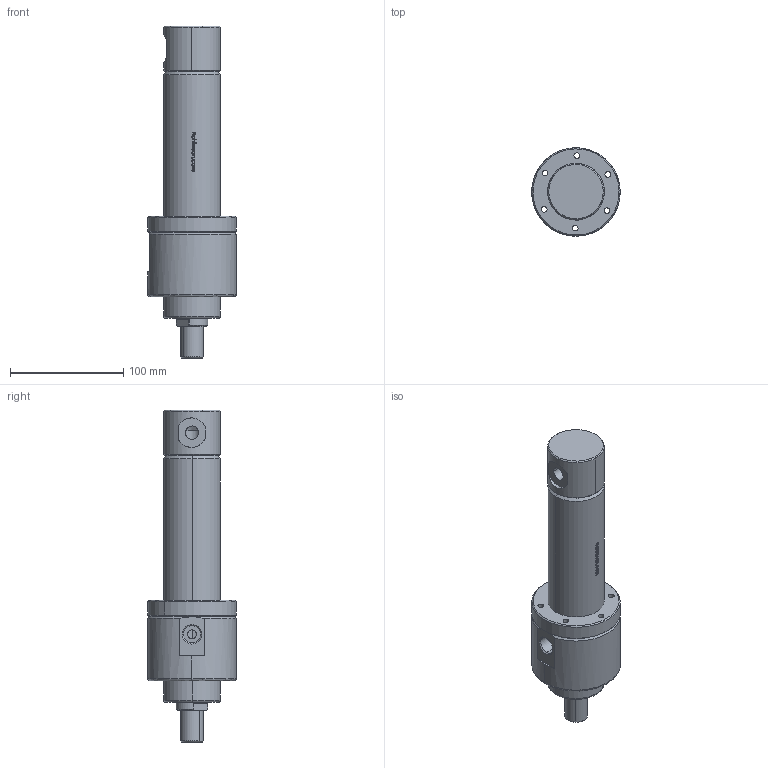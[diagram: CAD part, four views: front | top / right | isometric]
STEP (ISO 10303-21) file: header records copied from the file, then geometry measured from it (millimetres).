
FILE_DESCRIPTION (( 'STEP AP214' ), '1' );
FILE_NAME ('40_28_75_WEB.STEP', '2020-08-05T10:23:00', ( '' ), ( '' ), 'SwSTEP 2.0', 'SolidWorks 2018', '' );
FILE_SCHEMA (( 'AUTOMOTIVE_DESIGN' ));
Length unit declared in the file: millimetre
Products named in the file (11): Assem1; KASTAS-K84-32_8X40X3_4; 28_K_MIL_WEB; Kastas Seals-K68-28X32X9_7; KASTAS-K06-28X36_6X5_3X7; KASTAS-K32-28X38X6; 40_烰_KAPAK; 40_28_75_WEB; TYAK_40_50; FLANS; 40_25_HON_BORU_WEB
Assembly tree (11 placements, depth 3):
  40_28_75_WEB
    40_25_HON_BORU_WEB
    28_K_MIL_WEB
    Assem1
      40_烰_KAPAK
      KASTAS-K06-28X36_6X5_3X7
      KASTAS-K32-28X38X6
      Kastas Seals-K68-28X32X9_7  x2
      KASTAS-K84-32_8X40X3_4
    FLANS
    TYAK_40_50
Bounding box: 78 x 78 x 293 mm (x, y, z)
Volume: 482908.9 mm3; surface area: 127174.8 mm2
Topology: 10 solids, 10 shells, 483 faces, 1177 edges, 751 vertices
Faces by surface type: plane 143, cylinder 130, cone 103, bspline 103, torus 4
Entity records: 21002 total; most frequent: CARTESIAN_POINT 8059, ORIENTED_EDGE 2258, DIRECTION 2058, EDGE_CURVE 1129, AXIS2_PLACEMENT_3D 795, VERTEX_POINT 720, EDGE_LOOP 541, LINE 468
